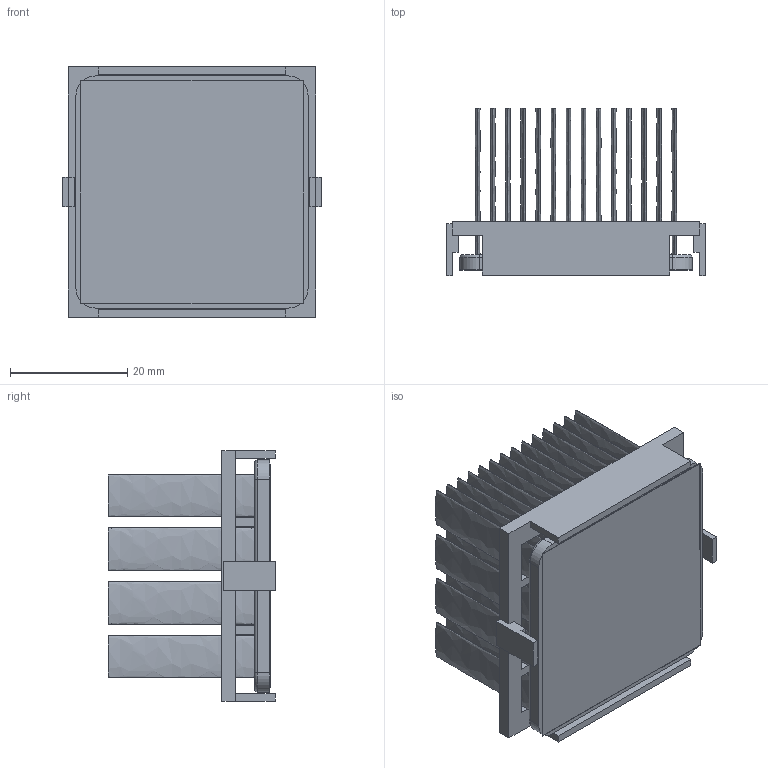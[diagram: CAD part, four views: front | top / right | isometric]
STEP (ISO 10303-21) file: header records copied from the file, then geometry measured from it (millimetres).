
FILE_DESCRIPTION (( 'STEP AP214' ), '1' );
FILE_NAME ('INM40001-28W-2.6O.STEP', '2023-02-21T17:44:20', ( '' ), ( '' ), 'SwSTEP 2.0', 'SolidWorks 2020', '' );
FILE_SCHEMA (( 'AUTOMOTIVE_DESIGN' ));
Length unit declared in the file: inch
Products named in the file (1): INM40001-28W-2.6O
Bounding box: 44.2 x 28.6 x 42.7 mm (x, y, z)
Volume: 12683.4 mm3; surface area: 30148.6 mm2
Topology: 3 solids, 3 shells, 250 faces, 556 edges, 368 vertices
Faces by surface type: plane 126, bspline 112, cylinder 8, torus 4
Entity records: 10428 total; most frequent: CARTESIAN_POINT 2631, ORIENTED_EDGE 1112, DIRECTION 630, EDGE_CURVE 556, VERTEX_POINT 368, LINE 312, VECTOR 312, EDGE_LOOP 308
